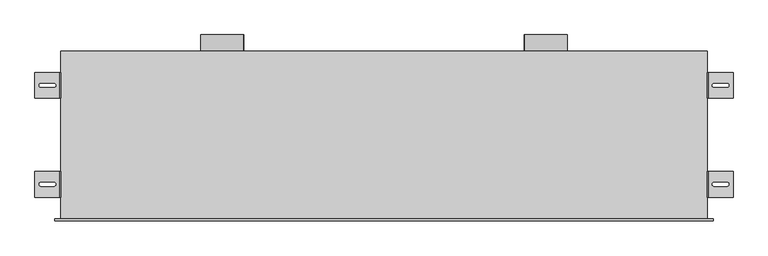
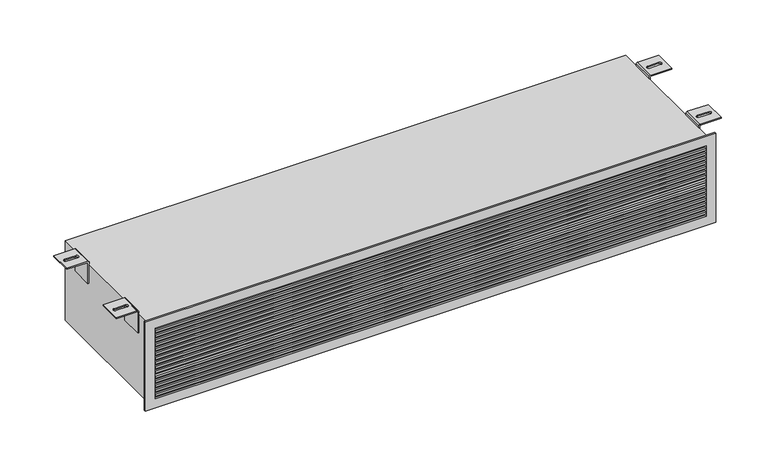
"""IFC4 building model written with IfcOpenShell, lengths in millimetres: air terminal geometry, EOL - Mural - 2 piquages : EOL-M2x100-1500x225-2."""

import ifcopenshell
import ifcopenshell.guid

model = None  # the IFC model being written
_history = None  # IfcOwnerHistory: only IFC2X3 demands one
_inside = {}  # id of a spatial element -> (the spatial element, [elements in it])
_under = {}  # id of a project, library or spatial element -> (it, [spatial elements below it])
_declared = {}  # id of a project -> (the project, [libraries it declares])
_typed = {}  # id of a type object -> (the type object, [elements of that type])
_made_of = {}  # id of a material, layer set ... -> (it, [elements and type objects made of it])


def new_model(schema):
    """Start an empty IFC model of exactly this schema.

    Asked for "IFC4X3", IfcOpenShell would pick the latest addendum, in which some entities
    have other attributes; the version numbers below select the first issue.
    IFC2X3 requires an IfcOwnerHistory on every rooted entity: one is made here for all.
    """
    global model, _history
    if schema == "IFC4X3":
        model = ifcopenshell.file(schema_version=(4, 3, 0, 0))
    else:
        model = ifcopenshell.file(schema=schema)
    _inside.clear()
    _under.clear()
    _declared.clear()
    _typed.clear()
    _made_of.clear()
    _history = None
    if model.schema == "IFC2X3":
        org = make("IfcOrganization", Name="unknown")
        user = make(
            "IfcPersonAndOrganization",
            ThePerson=make("IfcPerson", FamilyName="unknown"),
            TheOrganization=org,
        )
        app = make(
            "IfcApplication",
            ApplicationDeveloper=org,
            Version="unknown",
            ApplicationFullName="unknown",
            ApplicationIdentifier="unknown",
        )
        _history = make(
            "IfcOwnerHistory",
            OwningUser=user,
            OwningApplication=app,
            ChangeAction="ADDED",
            CreationDate=0,
        )
    return model


def make(cls, **values):
    """One entity of the class cls with the attributes given. An attribute that is None is left unset."""
    return model.create_entity(
        cls, **{name: value for name, value in values.items() if value is not None}
    )


def rooted(cls, **values):
    """An entity with a GlobalId (a new one), such as an element, a storey or a relation."""
    return make(cls, GlobalId=ifcopenshell.guid.new(), OwnerHistory=_history, **values)


def si_unit(unit_type, name, prefix=None):
    """IfcSIUnit, for example si_unit("LENGTHUNIT", "METRE", prefix="MILLI")."""
    return make("IfcSIUnit", UnitType=unit_type, Prefix=prefix, Name=name)


def assignment(units):
    """IfcUnitAssignment: the units of a project."""
    return None if units is None else make("IfcUnitAssignment", Units=units)


def point(xyz):
    """IfcCartesianPoint."""
    return None if xyz is None else make("IfcCartesianPoint", Coordinates=xyz)


def direction(xyz):
    """IfcDirection."""
    return None if xyz is None else make("IfcDirection", DirectionRatios=xyz)


def frame(location, z_axis=None, x_axis=None):
    """IfcAxis2Placement3D, a coordinate frame: its origin and axes. An axis left out is left unset."""
    return make(
        "IfcAxis2Placement3D",
        Location=point(location),
        Axis=direction(z_axis),
        RefDirection=direction(x_axis),
    )


def frame_2d(location, x_axis=None):
    """IfcAxis2Placement2D, a coordinate frame in the plane: its origin and x axis."""
    return make(
        "IfcAxis2Placement2D", Location=point(location), RefDirection=direction(x_axis)
    )


def origin():
    """The frame at (0, 0, 0) with its axes left unset."""
    return frame((0.0, 0.0, 0.0))


def place(relative_to, where):
    """IfcLocalPlacement: puts the frame where relative to a parent placement (None: the world)."""
    return make(
        "IfcLocalPlacement", PlacementRelTo=relative_to, RelativePlacement=where
    )


def context(
    kind, dimensions, precision=None, world=None, true_north=None, identifier=None
):
    """IfcGeometricRepresentationContext, for example the 3D "Model" context."""
    return make(
        "IfcGeometricRepresentationContext",
        ContextIdentifier=identifier,
        ContextType=kind,
        CoordinateSpaceDimension=dimensions,
        Precision=precision,
        WorldCoordinateSystem=world,
        TrueNorth=true_north,
    )


def project(units=None, contexts=None):
    """IfcProject with its units and contexts."""
    return rooted(
        "IfcProject",
        Name="project",
        RepresentationContexts=contexts,
        UnitsInContext=assignment(units),
    )


def spatial(cls, under=None, at=None, **own):
    """A site, building, storey or space (cls), placed at a placement, below another one or the project."""
    s = rooted(cls, ObjectPlacement=at, **own)
    if under is not None:
        _under.setdefault(under.id(), (under, []))[1].append(s)
    return s


def polyline(points):
    """IfcPolyline through the points."""
    return make("IfcPolyline", Points=[point(p) for p in points])


def circle_curve(where, radius):
    """IfcCircle in the frame where."""
    return make("IfcCircle", Position=where, Radius=radius)


def ellipse_curve(where, semi_axis1, semi_axis2):
    """IfcEllipse in the frame where."""
    return make(
        "IfcEllipse", Position=where, SemiAxis1=semi_axis1, SemiAxis2=semi_axis2
    )


def trimmed(basis, trim1, trim2, sense, master):
    """IfcTrimmedCurve: the piece of a basis curve between two trims."""
    return make(
        "IfcTrimmedCurve",
        BasisCurve=basis,
        Trim1=trim1,
        Trim2=trim2,
        SenseAgreement=sense,
        MasterRepresentation=master,
    )


def segment(curve, same_sense, transition):
    """IfcCompositeCurveSegment."""
    return make(
        "IfcCompositeCurveSegment",
        Transition=transition,
        SameSense=same_sense,
        ParentCurve=curve,
    )


def composite_curve(segments, self_intersect=None):
    """IfcCompositeCurve: segments joined end to end."""
    return make("IfcCompositeCurve", Segments=segments, SelfIntersect=self_intersect)


def outline(outer, holes=None, kind="AREA"):
    """IfcArbitraryClosedProfileDef: a profile drawn as a closed curve; with holes, ...WithVoids."""
    if holes is None:
        return make("IfcArbitraryClosedProfileDef", ProfileType=kind, OuterCurve=outer)
    return make(
        "IfcArbitraryProfileDefWithVoids",
        ProfileType=kind,
        OuterCurve=outer,
        InnerCurves=holes,
    )


def extrude(swept, where, along, depth):
    """IfcExtrudedAreaSolid: the profile swept, set in the frame where, extruded along a direction by depth."""
    return make(
        "IfcExtrudedAreaSolid",
        SweptArea=swept,
        Position=where,
        ExtrudedDirection=direction(along),
        Depth=depth,
    )


def shape(context_of_items, identifier, shape_type, items):
    """IfcShapeRepresentation: the items that make up one representation, for example the "Body"."""
    return make(
        "IfcShapeRepresentation",
        ContextOfItems=context_of_items,
        RepresentationIdentifier=identifier,
        RepresentationType=shape_type,
        Items=items,
    )


def source(mapping_origin, context_of_items, identifier, shape_type, items):
    """IfcRepresentationMap: a shape defined once, which mapped items show again and again."""
    return make(
        "IfcRepresentationMap",
        MappingOrigin=mapping_origin,
        MappedRepresentation=shape(context_of_items, identifier, shape_type, items),
    )


def transform(
    local_origin,
    x_axis=None,
    y_axis=None,
    z_axis=None,
    scale=None,
    scale2=None,
    scale3=None,
    uniform=True,
):
    """IfcCartesianTransformationOperator3D, or its non-uniform kind. x_axis, y_axis, z_axis: its Axis1, 2, 3."""
    if uniform:
        return make(
            "IfcCartesianTransformationOperator3D",
            Axis1=direction(x_axis),
            Axis2=direction(y_axis),
            LocalOrigin=point(local_origin),
            Scale=scale,
            Axis3=direction(z_axis),
        )
    return make(
        "IfcCartesianTransformationOperator3DnonUniform",
        Axis1=direction(x_axis),
        Axis2=direction(y_axis),
        LocalOrigin=point(local_origin),
        Scale=scale,
        Axis3=direction(z_axis),
        Scale2=scale2,
        Scale3=scale3,
    )


def mapped(mapping_source, mapping_target):
    """IfcMappedItem: shows the shape of a source again, moved by a transform."""
    return make(
        "IfcMappedItem", MappingSource=mapping_source, MappingTarget=mapping_target
    )


def made_of(thing, what):
    """Note that an element or type object is made of a material, layer set ...; save() writes the relation."""
    if what is not None:
        _made_of.setdefault(what.id(), (what, []))[1].append(thing)
    return thing


def element(
    cls,
    number,
    at=None,
    inside=None,
    cuts=None,
    type_object=None,
    material=None,
    context=None,
    identifier="Body",
    shape_type=None,
    held_by="IfcProductDefinitionShape",
    body=None,
    shapes=None,
    **own,
):
    """One element of the class cls, such as IfcWall. Its Tag is "e" and its number.

    at: its placement. inside: the storey or other place that contains it. cuts: it is an
    opening in that element (IfcRelVoidsElement). A single representation is given by context,
    identifier, shape_type and body (its items); several are given by shapes. held_by: the class
    of the entity that holds the representations. save() writes the other relations.
    """
    e = rooted(cls, Tag="e%d" % number, ObjectPlacement=at, **own)
    if body is not None:
        shapes = [shape(context, identifier, shape_type, body)]
    if shapes is not None:
        e.Representation = make(held_by, Representations=shapes)
    if inside is not None:
        _inside.setdefault(inside.id(), (inside, []))[1].append(e)
    if cuts is not None:
        rooted(
            "IfcRelVoidsElement", RelatingBuildingElement=cuts, RelatedOpeningElement=e
        )
    if type_object is not None:
        _typed.setdefault(type_object.id(), (type_object, []))[1].append(e)
    return made_of(e, material)


def aggregate(whole, parts):
    """IfcRelAggregates: a whole, such as a stair, and the parts it consists of."""
    return rooted("IfcRelAggregates", RelatingObject=whole, RelatedObjects=parts)


def save(model, path):
    """Write the relations noted so far, then the file.

    IfcRelAggregates (storeys below a building ...), IfcRelContainedInSpatialStructure (elements
    in a storey), IfcRelDefinesByType, IfcRelAssociatesMaterial and IfcRelDeclares: one each for
    every whole, place, type object, material and project.
    """
    for whole, parts in _under.values():
        aggregate(whole, parts)
    for where, things in _inside.values():
        rooted(
            "IfcRelContainedInSpatialStructure",
            RelatedElements=things,
            RelatingStructure=where,
        )
    for kind, things in _typed.values():
        rooted("IfcRelDefinesByType", RelatedObjects=things, RelatingType=kind)
    for what, things in _made_of.values():
        rooted("IfcRelAssociatesMaterial", RelatedObjects=things, RelatingMaterial=what)
    for by, libraries in _declared.values():
        rooted("IfcRelDeclares", RelatingContext=by, RelatedDefinitions=libraries)
    model.write(path)


def plane_surface(at):
    """IfcPlane: the flat surface through the origin of the frame at, square to its z axis."""
    return make("IfcPlane", Position=at)


def cylinder_surface(at, radius):
    """IfcCylindricalSurface: all points at the distance radius from the z axis of the frame at."""
    return make("IfcCylindricalSurface", Position=at, Radius=radius)


def revolved_surface(curve, axis_point, axis_direction):
    """IfcSurfaceOfRevolution: the curve turned about the line through axis_point along axis_direction."""
    return make(
        "IfcSurfaceOfRevolution",
        SweptCurve=make("IfcArbitraryOpenProfileDef", ProfileType="CURVE", Curve=curve),
        AxisPosition=make("IfcAxis1Placement", Location=point(axis_point), Axis=direction(axis_direction)),
    )


def extruded_surface(curve, direction_of_extrusion, depth):
    """IfcSurfaceOfLinearExtrusion: the curve pushed along a direction by depth."""
    return make(
        "IfcSurfaceOfLinearExtrusion",
        SweptCurve=make("IfcArbitraryOpenProfileDef", ProfileType="CURVE", Curve=curve),
        ExtrudedDirection=direction(direction_of_extrusion),
        Depth=depth,
    )


def advanced_brep(points, edges, surfaces, faces):
    """IfcAdvancedBrep: a solid bounded by faces that lie on surfaces and meet in shared edges.

    An edge is (start, end): straight between two places in points (the first is 0);
    or (start, end, curve); or (start, end, curve, False) where it runs against its curve.
    A face is (place in surfaces, loops), or (place, loops, False) where it looks against
    its surface's normal. A loop lists edges by number (the first is 1), with a minus sign
    where the edge is run from its end to its start. The first loop is the outer one.
    """
    corners = [point(p) for p in points]
    vertices = [make("IfcVertexPoint", VertexGeometry=c) for c in corners]
    made = []
    for start, end, *more in edges:
        made.append(
            make(
                "IfcEdgeCurve",
                EdgeStart=vertices[start],
                EdgeEnd=vertices[end],
                EdgeGeometry=more[0] if more else make("IfcPolyline", Points=[corners[start], corners[end]]),
                SameSense=more[1] if len(more) > 1 else True,
            )
        )
    hull = []
    for where, loops, *sense in faces:
        bounds = []
        for j, loop in enumerate(loops):
            ring = [make("IfcOrientedEdge", EdgeElement=made[abs(k) - 1], Orientation=k > 0) for k in loop]
            bounds.append(
                make(
                    "IfcFaceOuterBound" if j == 0 else "IfcFaceBound",
                    Bound=make("IfcEdgeLoop", EdgeList=ring),
                    Orientation=True,
                )
            )
        hull.append(make("IfcAdvancedFace", Bounds=bounds, FaceSurface=surfaces[where], SameSense=sense[0] if sense else True))
    return make("IfcAdvancedBrep", Outer=make("IfcClosedShell", CfsFaces=hull))


def air_terminal_94710e21(model_context):
    return source(origin(), model_context, "Body", "SolidModel", [
        advanced_brep(
        [(754.0013366, 110.0, 121.5), (810.0, 110.0, 121.5), (810.0, 110.0, 118.5), (754.0, 110.0, 118.5), (753.0, 110.0, 117.5), (753.0, 110.0, 58.5), (750.0, 110.0, 58.5), (750.0, 110.0, 117.4986634), (754.0013366, 50.0, 121.5), (750.0, 50.0, 117.4986634), (750.0, 50.0, 58.5), (753.0, 50.0, 58.5), (753.0, 50.0, 117.5), (754.0, 50.0, 118.5), (810.0, 50.0, 118.5), (810.0, 50.0, 121.5), (796.0287952, 75.4804328, 121.5), (766.0287952, 75.4804328, 121.5), (766.0287952, 84.4804328, 121.5), (796.0287952, 84.4804328, 121.5), (766.0287952, 75.4804328, 118.5), (796.0287952, 75.4804328, 118.5), (796.0287952, 84.4804328, 118.5), (766.0287952, 84.4804328, 118.5)],
        [
            (0, 1),
            (1, 2),
            (2, 3),
            (3, 4, circle_curve(frame((754.0, 110.0, 117.5), z_axis=(0.0, -1.0, 0.0), x_axis=(-1.0000000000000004, 0.0, 0.0)), 1.0)),
            (4, 5),
            (5, 6),
            (6, 7),
            (7, 0, circle_curve(frame((754.0013366, 110.0, 117.4986634), z_axis=(0.0, 1.0, 0.0), x_axis=(-1.0000000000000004, 0.0, 0.0)), 4.0013366)),
            (8, 9, circle_curve(frame((754.0013366, 50.0, 117.4986634), z_axis=(0.0, -1.0, 0.0), x_axis=(-1.0000000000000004, 0.0, 0.0)), 4.0013366)),
            (9, 10),
            (10, 11),
            (11, 12),
            (12, 13, circle_curve(frame((754.0, 50.0, 117.5), z_axis=(0.0, 1.0, 0.0), x_axis=(-1.0000000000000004, 0.0, 0.0)), 1.0)),
            (13, 14),
            (14, 15),
            (15, 8),
            (0, 8),
            (15, 1),
            (16, 17),
            (17, 18, circle_curve(frame((766.0287952, 79.9804328, 121.5), z_axis=(0.0, 0.0, -1.0), x_axis=(0.0, -1.0, 0.0)), 4.5)),
            (18, 19),
            (19, 16, circle_curve(frame((796.0287952, 79.9804328, 121.5), z_axis=(0.0, 0.0, -1.0), x_axis=(0.0, -1.0, 0.0)), 4.5)),
            (14, 2),
            (13, 3),
            (20, 21),
            (21, 22, ellipse_curve(frame((796.0287952, 79.9804328, 118.5), z_axis=(0.0, 0.0, 1.0), x_axis=(0.0, -1.0, 0.0)), 4.5, 4.5)),
            (22, 23),
            (23, 20, ellipse_curve(frame((766.0287952, 79.9804328, 118.5), z_axis=(0.0, 0.0, 1.0), x_axis=(0.0, -1.0, 0.0)), 4.5, 4.5)),
            (12, 4),
            (11, 5),
            (10, 6),
            (9, 7),
            (16, 21),
            (20, 17),
            (19, 22),
            (18, 23),
        ],
        [
            plane_surface(frame((810.0, 110.0, 121.5), z_axis=(0.0, 1.0, 0.0), x_axis=(1.0, 0.0, 0.0))),
            plane_surface(frame((810.0, 50.0, 121.5), z_axis=(0.0, -1.0, 0.0), x_axis=(-1.0, 0.0, 0.0))),
            plane_surface(frame((754.0013366, 110.0, 121.5), z_axis=(0.0, 0.0, 1.0), x_axis=(0.0, -1.0, 0.0))),
            plane_surface(frame((810.0, 110.0, 121.5), z_axis=(1.0, 0.0, 0.0), x_axis=(0.0, -1.0, 0.0))),
            plane_surface(frame((810.0, 110.0, 118.5), z_axis=(0.0, 0.0, -1.0), x_axis=(0.0, -1.0, 0.0))),
            revolved_surface(polyline([(753.0, 50.0, 117.5), (753.0, 110.00000000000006, 117.5)]), (754.0, 50.0, 117.5), (0.0, -1.0000000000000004, 0.0)),
            plane_surface(frame((753.0, 110.0, 117.5), z_axis=(1.0, 0.0, 0.0), x_axis=(0.0, -1.0, 0.0))),
            plane_surface(frame((753.0, 110.0, 58.5), z_axis=(0.0, 0.0, -1.0), x_axis=(0.0, -1.0, 0.0))),
            plane_surface(frame((750.0, 110.0, 58.5), z_axis=(-1.0, 0.0, 0.0), x_axis=(0.0, -1.0, 0.0))),
            cylinder_surface(frame((754.0013366, 50.0, 117.4986634), z_axis=(0.0, 1.0000000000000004, 0.0), x_axis=(-1.0000000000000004, 0.0, 0.0)), 4.0013366),
            plane_surface(frame((766.0287952, 75.4804328, 121.5), z_axis=(0.0, 1.0, 0.0), x_axis=(0.0, 0.0, -1.0))),
            extruded_surface(trimmed(ellipse_curve(frame((796.0287952, 79.9804328, 118.5), z_axis=(0.0, 0.0, 1.0), x_axis=(0.0, -1.0, 0.0)), 4.5, 4.5), [point((796.0287952, 75.4804328, 118.5))], [point((796.0287952, 84.4804328, 118.5))], True, "CARTESIAN"), (0.0, 0.0, -3.0), 3.0),
            plane_surface(frame((796.0287952, 84.4804328, 121.5), z_axis=(0.0, -1.0, 0.0), x_axis=(0.0, 0.0, -1.0))),
            extruded_surface(trimmed(ellipse_curve(frame((766.0287952, 79.9804328, 118.5), z_axis=(0.0, 0.0, 1.0), x_axis=(0.0, -1.0, 0.0)), 4.5, 4.5), [point((766.0287952, 84.4804328, 118.5))], [point((766.0287952, 75.4804328, 118.5))], True, "CARTESIAN"), (0.0, 0.0, -3.0), 3.0),
        ],
        [
            (0, [[1, 2, 3, 4, 5, 6, 7, 8]]),
            (1, [[9, 10, 11, 12, 13, 14, 15, 16]]),
            (2, [[-1, 17, -16, 18], [19, 20, 21, 22]]),
            (3, [[-2, -18, -15, 23]]),
            (4, [[-3, -23, -14, 24], [25, 26, 27, 28]]),
            (5, [[-4, -24, -13, 29]]),
            (6, [[-5, -29, -12, 30]]),
            (7, [[-6, -30, -11, 31]]),
            (8, [[-7, -31, -10, 32]]),
            (9, [[-8, -32, -9, -17]]),
            (10, [[33, -25, 34, -19]]),
            (11, [[-33, -22, 35, -26]]),
            (12, [[-35, -21, 36, -27]]),
            (13, [[-34, -28, -36, -20]]),
        ],
    ),
        advanced_brep(
        [(754.0013366, 340.0, 121.5), (810.0, 340.0, 121.5), (810.0, 340.0, 118.5), (754.0, 340.0, 118.5), (753.0, 340.0, 117.5), (753.0, 340.0, 58.5), (750.0, 340.0, 58.5), (750.0, 340.0, 117.4986634), (754.0013366, 280.0, 121.5), (750.0, 280.0, 117.4986634), (750.0, 280.0, 58.5), (753.0, 280.0, 58.5), (753.0, 280.0, 117.5), (754.0, 280.0, 118.5), (810.0, 280.0, 118.5), (810.0, 280.0, 121.5), (796.0287952, 305.4804328, 121.5), (766.0287952, 305.4804328, 121.5), (766.0287952, 314.4804328, 121.5), (796.0287952, 314.4804328, 121.5), (766.0287952, 305.4804328, 118.5), (796.0287952, 305.4804328, 118.5), (796.0287952, 314.4804328, 118.5), (766.0287952, 314.4804328, 118.5)],
        [
            (0, 1),
            (1, 2),
            (2, 3),
            (3, 4, circle_curve(frame((754.0, 340.0, 117.5), z_axis=(0.0, -1.0, 0.0), x_axis=(-1.0, 0.0, 0.0)), 1.0)),
            (4, 5),
            (5, 6),
            (6, 7),
            (7, 0, circle_curve(frame((754.0013366, 340.0, 117.4986634), z_axis=(0.0, 1.0, 0.0), x_axis=(-1.0, 0.0, 0.0)), 4.0013366)),
            (8, 9, circle_curve(frame((754.0013366, 280.0, 117.4986634), z_axis=(0.0, -1.0, 0.0), x_axis=(-1.0, 0.0, 0.0)), 4.0013366)),
            (9, 10),
            (10, 11),
            (11, 12),
            (12, 13, circle_curve(frame((754.0, 280.0, 117.5), z_axis=(0.0, 1.0, 0.0), x_axis=(-1.0, 0.0, 0.0)), 1.0)),
            (13, 14),
            (14, 15),
            (15, 8),
            (0, 8),
            (15, 1),
            (16, 17),
            (17, 18, circle_curve(frame((766.0287952, 309.9804328, 121.5), z_axis=(0.0, 0.0, -1.0), x_axis=(0.0, -1.0, 0.0)), 4.5)),
            (18, 19),
            (19, 16, circle_curve(frame((796.0287952, 309.9804328, 121.5), z_axis=(0.0, 0.0, -1.0), x_axis=(0.0, -1.0, 0.0)), 4.5)),
            (14, 2),
            (13, 3),
            (20, 21),
            (21, 22, ellipse_curve(frame((796.0287952, 309.9804328, 118.5), z_axis=(0.0, 0.0, 1.0), x_axis=(0.0, -1.0, 0.0)), 4.5, 4.5)),
            (22, 23),
            (23, 20, ellipse_curve(frame((766.0287952, 309.9804328, 118.5), z_axis=(0.0, 0.0, 1.0), x_axis=(0.0, -1.0, 0.0)), 4.5, 4.5)),
            (12, 4),
            (11, 5),
            (10, 6),
            (9, 7),
            (16, 21),
            (20, 17),
            (19, 22),
            (18, 23),
        ],
        [
            plane_surface(frame((810.0, 340.0, 121.5), z_axis=(0.0, 1.0, 0.0), x_axis=(1.0, 0.0, 0.0))),
            plane_surface(frame((810.0, 280.0, 121.5), z_axis=(0.0, -1.0, 0.0), x_axis=(-1.0, 0.0, 0.0))),
            plane_surface(frame((754.0013366, 340.0, 121.5), z_axis=(0.0, 0.0, 1.0), x_axis=(0.0, -1.0, 0.0))),
            plane_surface(frame((810.0, 340.0, 121.5), z_axis=(1.0, 0.0, 0.0), x_axis=(0.0, -1.0, 0.0))),
            plane_surface(frame((810.0, 340.0, 118.5), z_axis=(0.0, 0.0, -1.0), x_axis=(0.0, -1.0, 0.0))),
            revolved_surface(polyline([(753.0, 280.0, 117.5), (753.0, 340.0, 117.5)]), (754.0, 280.0, 117.5), (0.0, -1.0, 0.0)),
            plane_surface(frame((753.0, 340.0, 117.5), z_axis=(1.0, 0.0, 0.0), x_axis=(0.0, -1.0, 0.0))),
            plane_surface(frame((753.0, 340.0, 58.5), z_axis=(0.0, 0.0, -1.0), x_axis=(0.0, -1.0, 0.0))),
            plane_surface(frame((750.0, 340.0, 58.5), z_axis=(-1.0, 0.0, 0.0), x_axis=(0.0, -1.0, 0.0))),
            cylinder_surface(frame((754.0013366, 280.0, 117.4986634), z_axis=(0.0, 1.0, 0.0), x_axis=(-1.0, 0.0, 0.0)), 4.0013366),
            plane_surface(frame((766.0287952, 305.4804328, 121.5), z_axis=(0.0, 1.0, 0.0), x_axis=(0.0, 0.0, -1.0))),
            extruded_surface(trimmed(ellipse_curve(frame((796.0287952, 309.9804328, 118.5), z_axis=(0.0, 0.0, 1.0), x_axis=(0.0, -1.0, 0.0)), 4.5, 4.5), [point((796.0287952, 305.4804328, 118.5))], [point((796.0287952, 314.4804328, 118.5))], True, "CARTESIAN"), (0.0, 0.0, -3.0), 3.0),
            plane_surface(frame((796.0287952, 314.4804328, 121.5), z_axis=(0.0, -1.0, 0.0), x_axis=(0.0, 0.0, -1.0))),
            extruded_surface(trimmed(ellipse_curve(frame((766.0287952, 309.9804328, 118.5), z_axis=(0.0, 0.0, 1.0), x_axis=(0.0, -1.0, 0.0)), 4.5, 4.5), [point((766.0287952, 314.4804328, 118.5))], [point((766.0287952, 305.4804328, 118.5))], True, "CARTESIAN"), (0.0, 0.0, -3.0), 3.0),
        ],
        [
            (0, [[1, 2, 3, 4, 5, 6, 7, 8]]),
            (1, [[9, 10, 11, 12, 13, 14, 15, 16]]),
            (2, [[-1, 17, -16, 18], [19, 20, 21, 22]]),
            (3, [[-2, -18, -15, 23]]),
            (4, [[-3, -23, -14, 24], [25, 26, 27, 28]]),
            (5, [[-4, -24, -13, 29]]),
            (6, [[-5, -29, -12, 30]]),
            (7, [[-6, -30, -11, 31]]),
            (8, [[-7, -31, -10, 32]]),
            (9, [[-8, -32, -9, -17]]),
            (10, [[33, -25, 34, -19]]),
            (11, [[-33, -22, 35, -26]]),
            (12, [[-35, -21, 36, -27]]),
            (13, [[-34, -28, -36, -20]]),
        ],
    ),
        advanced_brep(
        [(-754.0013366, 50.0, 121.5), (-810.0, 50.0, 121.5), (-810.0, 50.0, 118.5), (-754.0, 50.0, 118.5), (-753.0, 50.0, 117.5), (-753.0, 50.0, 58.5), (-750.0, 50.0, 58.5), (-750.0, 50.0, 117.4986634), (-754.0013366, 110.0, 121.5), (-750.0, 110.0, 117.4986634), (-750.0, 110.0, 58.5), (-753.0, 110.0, 58.5), (-753.0, 110.0, 117.5), (-754.0, 110.0, 118.5), (-810.0, 110.0, 118.5), (-810.0, 110.0, 121.5), (-796.0287952, 84.5195672, 121.5), (-766.0287952, 84.5195672, 121.5), (-766.0287952, 75.5195672, 121.5), (-796.0287952, 75.5195672, 121.5), (-766.0287952, 84.5195672, 118.5), (-796.0287952, 84.5195672, 118.5), (-796.0287952, 75.5195672, 118.5), (-766.0287952, 75.5195672, 118.5)],
        [
            (0, 1),
            (1, 2),
            (2, 3),
            (3, 4, circle_curve(frame((-754.0, 50.0, 117.5), z_axis=(0.0, 1.0, 0.0), x_axis=(1.0, 0.0, 0.0)), 1.0)),
            (4, 5),
            (5, 6),
            (6, 7),
            (7, 0, circle_curve(frame((-754.0013366, 50.0, 117.4986634), z_axis=(0.0, -1.0, 0.0), x_axis=(1.0, 0.0, 0.0)), 4.0013366)),
            (8, 9, circle_curve(frame((-754.0013366, 110.0, 117.4986634), z_axis=(0.0, 1.0, 0.0), x_axis=(1.0, 0.0, 0.0)), 4.0013366)),
            (9, 10),
            (10, 11),
            (11, 12),
            (12, 13, circle_curve(frame((-754.0, 110.0, 117.5), z_axis=(0.0, -1.0, 0.0), x_axis=(1.0, 0.0, 0.0)), 1.0)),
            (13, 14),
            (14, 15),
            (15, 8),
            (0, 8),
            (15, 1),
            (16, 17),
            (17, 18, circle_curve(frame((-766.0287952, 80.0195672, 121.5), z_axis=(0.0, 0.0, -1.0), x_axis=(0.0, 1.0, 0.0)), 4.5)),
            (18, 19),
            (19, 16, circle_curve(frame((-796.0287952, 80.0195672, 121.5), z_axis=(0.0, 0.0, -1.0), x_axis=(0.0, 1.0, 0.0)), 4.5)),
            (14, 2),
            (13, 3),
            (20, 21),
            (21, 22, ellipse_curve(frame((-796.0287952, 80.0195672, 118.5), z_axis=(0.0, 0.0, 1.0), x_axis=(0.0, 1.0, 0.0)), 4.5, 4.5)),
            (22, 23),
            (23, 20, ellipse_curve(frame((-766.0287952, 80.0195672, 118.5), z_axis=(0.0, 0.0, 1.0), x_axis=(0.0, 1.0, 0.0)), 4.5, 4.5)),
            (12, 4),
            (11, 5),
            (10, 6),
            (9, 7),
            (16, 21),
            (20, 17),
            (19, 22),
            (18, 23),
        ],
        [
            plane_surface(frame((-810.0, 50.0, 121.5), z_axis=(0.0, -1.0, 0.0), x_axis=(-1.0, 0.0, 0.0))),
            plane_surface(frame((-810.0, 110.0, 121.5), z_axis=(0.0, 1.0, 0.0), x_axis=(1.0, 0.0, 0.0))),
            plane_surface(frame((-754.0013366, 50.0, 121.5), z_axis=(0.0, 0.0, 1.0), x_axis=(0.0, 1.0, 0.0))),
            plane_surface(frame((-810.0, 50.0, 121.5), z_axis=(-1.0, 0.0, 0.0), x_axis=(0.0, 1.0, 0.0))),
            plane_surface(frame((-810.0, 50.0, 118.5), z_axis=(0.0, 0.0, -1.0), x_axis=(0.0, 1.0, 0.0))),
            revolved_surface(polyline([(-753.0, 110.0, 117.5), (-753.0, 50.0, 117.5)]), (-754.0, 110.0, 117.5), (0.0, 1.0, 0.0)),
            plane_surface(frame((-753.0, 50.0, 117.5), z_axis=(-1.0, 0.0, 0.0), x_axis=(0.0, 1.0, 0.0))),
            plane_surface(frame((-753.0, 50.0, 58.5), z_axis=(0.0, 0.0, -1.0), x_axis=(0.0, 1.0, 0.0))),
            plane_surface(frame((-750.0, 50.0, 58.5), z_axis=(1.0, 0.0, 0.0), x_axis=(0.0, 1.0, 0.0))),
            cylinder_surface(frame((-754.0013366, 110.0, 117.4986634), z_axis=(0.0, -1.0, 0.0), x_axis=(1.0, 0.0, 0.0)), 4.0013366),
            plane_surface(frame((-766.0287952, 84.5195672, 121.5), z_axis=(0.0, -1.0, 0.0), x_axis=(0.0, 0.0, -1.0))),
            extruded_surface(trimmed(ellipse_curve(frame((-796.0287952, 80.0195672, 118.5), z_axis=(0.0, 0.0, 1.0), x_axis=(0.0, 1.0, 0.0)), 4.5, 4.5), [point((-796.0287952, 84.5195672, 118.5))], [point((-796.0287952, 75.5195672, 118.5))], True, "CARTESIAN"), (0.0, 0.0, -3.0), 3.0),
            plane_surface(frame((-796.0287952, 75.5195672, 121.5), z_axis=(0.0, 1.0, 0.0), x_axis=(0.0, 0.0, -1.0))),
            extruded_surface(trimmed(ellipse_curve(frame((-766.0287952, 80.0195672, 118.5), z_axis=(0.0, 0.0, 1.0), x_axis=(0.0, 1.0, 0.0)), 4.5, 4.5), [point((-766.0287952, 75.5195672, 118.5))], [point((-766.0287952, 84.5195672, 118.5))], True, "CARTESIAN"), (0.0, 0.0, -3.0), 3.0),
        ],
        [
            (0, [[1, 2, 3, 4, 5, 6, 7, 8]]),
            (1, [[9, 10, 11, 12, 13, 14, 15, 16]]),
            (2, [[-1, 17, -16, 18], [19, 20, 21, 22]]),
            (3, [[-2, -18, -15, 23]]),
            (4, [[-3, -23, -14, 24], [25, 26, 27, 28]]),
            (5, [[-4, -24, -13, 29]]),
            (6, [[-5, -29, -12, 30]]),
            (7, [[-6, -30, -11, 31]]),
            (8, [[-7, -31, -10, 32]]),
            (9, [[-8, -32, -9, -17]]),
            (10, [[33, -25, 34, -19]]),
            (11, [[-33, -22, 35, -26]]),
            (12, [[-35, -21, 36, -27]]),
            (13, [[-34, -28, -36, -20]]),
        ],
    ),
        advanced_brep(
        [(-754.0013366, 280.0, 121.5), (-810.0, 280.0, 121.5), (-810.0, 280.0, 118.5), (-754.0, 280.0, 118.5), (-753.0, 280.0, 117.5), (-753.0, 280.0, 58.5), (-750.0, 280.0, 58.5), (-750.0, 280.0, 117.4986634), (-754.0013366, 340.0, 121.5), (-750.0, 340.0, 117.4986634), (-750.0, 340.0, 58.5), (-753.0, 340.0, 58.5), (-753.0, 340.0, 117.5), (-754.0, 340.0, 118.5), (-810.0, 340.0, 118.5), (-810.0, 340.0, 121.5), (-796.0287952, 314.5195672, 121.5), (-766.0287952, 314.5195672, 121.5), (-766.0287952, 305.5195672, 121.5), (-796.0287952, 305.5195672, 121.5), (-766.0287952, 314.5195672, 118.5), (-796.0287952, 314.5195672, 118.5), (-796.0287952, 305.5195672, 118.5), (-766.0287952, 305.5195672, 118.5)],
        [
            (0, 1),
            (1, 2),
            (2, 3),
            (3, 4, circle_curve(frame((-754.0, 280.0, 117.5), z_axis=(0.0, 1.0, 0.0), x_axis=(1.0, 0.0, 0.0)), 1.0)),
            (4, 5),
            (5, 6),
            (6, 7),
            (7, 0, circle_curve(frame((-754.0013366, 280.0, 117.4986634), z_axis=(0.0, -1.0, 0.0), x_axis=(1.0, 0.0, 0.0)), 4.0013366)),
            (8, 9, circle_curve(frame((-754.0013366, 340.0, 117.4986634), z_axis=(0.0, 1.0, 0.0), x_axis=(1.0, 0.0, 0.0)), 4.0013366)),
            (9, 10),
            (10, 11),
            (11, 12),
            (12, 13, circle_curve(frame((-754.0, 340.0, 117.5), z_axis=(0.0, -1.0, 0.0), x_axis=(1.0, 0.0, 0.0)), 1.0)),
            (13, 14),
            (14, 15),
            (15, 8),
            (0, 8),
            (15, 1),
            (16, 17),
            (17, 18, circle_curve(frame((-766.0287952, 310.0195672, 121.5), z_axis=(0.0, 0.0, -1.0), x_axis=(0.0, 1.0, 0.0)), 4.5)),
            (18, 19),
            (19, 16, circle_curve(frame((-796.0287952, 310.0195672, 121.5), z_axis=(0.0, 0.0, -1.0), x_axis=(0.0, 1.0, 0.0)), 4.5)),
            (14, 2),
            (13, 3),
            (20, 21),
            (21, 22, ellipse_curve(frame((-796.0287952, 310.0195672, 118.5), z_axis=(0.0, 0.0, 1.0), x_axis=(0.0, 1.0, 0.0)), 4.5, 4.5)),
            (22, 23),
            (23, 20, ellipse_curve(frame((-766.0287952, 310.0195672, 118.5), z_axis=(0.0, 0.0, 1.0), x_axis=(0.0, 1.0, 0.0)), 4.5, 4.5)),
            (12, 4),
            (11, 5),
            (10, 6),
            (9, 7),
            (16, 21),
            (20, 17),
            (19, 22),
            (18, 23),
        ],
        [
            plane_surface(frame((-810.0, 280.0, 121.5), z_axis=(0.0, -1.0, 0.0), x_axis=(-1.0, 0.0, 0.0))),
            plane_surface(frame((-810.0, 340.0, 121.5), z_axis=(0.0, 1.0, 0.0), x_axis=(1.0, 0.0, 0.0))),
            plane_surface(frame((-754.0013366, 280.0, 121.5), z_axis=(0.0, 0.0, 1.0), x_axis=(0.0, 1.0, 0.0))),
            plane_surface(frame((-810.0, 280.0, 121.5), z_axis=(-1.0, 0.0, 0.0), x_axis=(0.0, 1.0, 0.0))),
            plane_surface(frame((-810.0, 280.0, 118.5), z_axis=(0.0, 0.0, -1.0), x_axis=(0.0, 1.0, 0.0))),
            revolved_surface(polyline([(-753.0, 340.0, 117.5), (-753.0, 280.0, 117.5)]), (-754.0, 340.0, 117.5), (0.0, 1.0, 0.0)),
            plane_surface(frame((-753.0, 280.0, 117.5), z_axis=(-1.0, 0.0, 0.0), x_axis=(0.0, 1.0, 0.0))),
            plane_surface(frame((-753.0, 280.0, 58.5), z_axis=(0.0, 0.0, -1.0), x_axis=(0.0, 1.0, 0.0))),
            plane_surface(frame((-750.0, 280.0, 58.5), z_axis=(1.0, 0.0, 0.0), x_axis=(0.0, 1.0, 0.0))),
            cylinder_surface(frame((-754.0013366, 340.0, 117.4986634), z_axis=(0.0, -1.0, 0.0), x_axis=(1.0, 0.0, 0.0)), 4.0013366),
            plane_surface(frame((-766.0287952, 314.5195672, 121.5), z_axis=(0.0, -1.0, 0.0), x_axis=(0.0, 0.0, -1.0))),
            extruded_surface(trimmed(ellipse_curve(frame((-796.0287952, 310.0195672, 118.5), z_axis=(0.0, 0.0, 1.0), x_axis=(0.0, 1.0, 0.0)), 4.5, 4.5), [point((-796.0287952, 314.5195672, 118.5))], [point((-796.0287952, 305.5195672, 118.5))], True, "CARTESIAN"), (0.0, 0.0, -3.0), 3.0),
            plane_surface(frame((-796.0287952, 305.5195672, 121.5), z_axis=(0.0, 1.0, 0.0), x_axis=(0.0, 0.0, -1.0))),
            extruded_surface(trimmed(ellipse_curve(frame((-766.0287952, 310.0195672, 118.5), z_axis=(0.0, 0.0, 1.0), x_axis=(0.0, 1.0, 0.0)), 4.5, 4.5), [point((-766.0287952, 305.5195672, 118.5))], [point((-766.0287952, 314.5195672, 118.5))], True, "CARTESIAN"), (0.0, 0.0, -3.0), 3.0),
        ],
        [
            (0, [[1, 2, 3, 4, 5, 6, 7, 8]]),
            (1, [[9, 10, 11, 12, 13, 14, 15, 16]]),
            (2, [[-1, 17, -16, 18], [19, 20, 21, 22]]),
            (3, [[-2, -18, -15, 23]]),
            (4, [[-3, -23, -14, 24], [25, 26, 27, 28]]),
            (5, [[-4, -24, -13, 29]]),
            (6, [[-5, -29, -12, 30]]),
            (7, [[-6, -30, -11, 31]]),
            (8, [[-7, -31, -10, 32]]),
            (9, [[-8, -32, -9, -17]]),
            (10, [[33, -25, 34, -19]]),
            (11, [[-33, -22, 35, -26]]),
            (12, [[-35, -21, 36, -27]]),
            (13, [[-34, -28, -36, -20]]),
        ],
    ),
        extrude(outline(composite_curve([segment(trimmed(circle_curve(frame_2d((0.0, 375.0)), 50.0), [point((0.0, 325.0))], [point((0.0, 425.0))], False, "CARTESIAN"), True, "CONTINUOUS"), segment(trimmed(circle_curve(frame_2d((0.0, 375.0)), 50.0), [point((0.0, 425.0))], [point((0.0, 325.0))], False, "CARTESIAN"), True, "CONTINUOUS")], self_intersect=False), holes=[composite_curve([segment(trimmed(circle_curve(frame_2d((0.0, 375.0)), 49.0), [point((0.0, 424.0))], [point((0.0, 326.0))], True, "CARTESIAN"), True, "CONTINUOUS"), segment(trimmed(circle_curve(frame_2d((0.0, 375.0)), 49.0), [point((0.0, 326.0))], [point((0.0, 424.0))], True, "CARTESIAN"), True, "CONTINUOUS")], self_intersect=False)]), frame((0.0, 390.0, 0.0), z_axis=(0.0, 1.0, 0.0), x_axis=(0.0, 0.0, 1.0)), (0.0, 0.0, 1.0), 37.5),
        extrude(outline(composite_curve([segment(trimmed(circle_curve(frame_2d((0.0, -375.0)), 50.0), [point((0.0, -425.0))], [point((0.0, -325.0))], False, "CARTESIAN"), True, "CONTINUOUS"), segment(trimmed(circle_curve(frame_2d((0.0, -375.0)), 50.0), [point((0.0, -325.0))], [point((0.0, -425.0))], False, "CARTESIAN"), True, "CONTINUOUS")], self_intersect=False), holes=[composite_curve([segment(trimmed(circle_curve(frame_2d((0.0, -375.0)), 49.0), [point((0.0, -326.0))], [point((0.0, -424.0))], True, "CARTESIAN"), True, "CONTINUOUS"), segment(trimmed(circle_curve(frame_2d((0.0, -375.0)), 49.0), [point((0.0, -424.0))], [point((0.0, -326.0))], True, "CARTESIAN"), True, "CONTINUOUS")], self_intersect=False)]), frame((0.0, 390.0, 0.0), z_axis=(0.0, 1.0, 0.0), x_axis=(0.0, 0.0, 1.0)), (0.0, 0.0, 1.0), 37.5),
        extrude(outline(polyline([(737.5, 0.0), (737.5, -5.0), (-737.5, -5.0), (-737.5, 0.0), (737.5, 0.0)])), frame((0.0, 0.0, 87.15), z_axis=(0.0, 0.0, 1.0), x_axis=(1.0, 0.0, 0.0)), (0.0, 0.0, 1.0), 5.6),
        extrude(outline(polyline([(737.5, 0.0), (737.5, -5.0), (-737.5, -5.0), (-737.5, 0.0), (737.5, 0.0)])), frame((0.0, 0.0, 74.3), z_axis=(0.0, 0.0, 1.0), x_axis=(1.0, 0.0, 0.0)), (0.0, 0.0, 1.0), 5.6),
        extrude(outline(polyline([(737.5, 0.0), (737.5, -5.0), (-737.5, -5.0), (-737.5, 0.0), (737.5, 0.0)])), frame((0.0, 0.0, 61.45), z_axis=(0.0, 0.0, 1.0), x_axis=(1.0, 0.0, 0.0)), (0.0, 0.0, 1.0), 5.6),
        extrude(outline(polyline([(737.5, 0.0), (737.5, -5.0), (-737.5, -5.0), (-737.5, 0.0), (737.5, 0.0)])), frame((0.0, 0.0, 48.6), z_axis=(0.0, 0.0, 1.0), x_axis=(1.0, 0.0, 0.0)), (0.0, 0.0, 1.0), 5.6),
        extrude(outline(polyline([(737.5, 0.0), (737.5, -5.0), (-737.5, -5.0), (-737.5, 0.0), (737.5, 0.0)])), frame((0.0, 0.0, 35.75), z_axis=(0.0, 0.0, 1.0), x_axis=(1.0, 0.0, 0.0)), (0.0, 0.0, 1.0), 5.6),
        extrude(outline(polyline([(737.5, 0.0), (737.5, -5.0), (-737.5, -5.0), (-737.5, 0.0), (737.5, 0.0)])), frame((0.0, 0.0, 22.9), z_axis=(0.0, 0.0, 1.0), x_axis=(1.0, 0.0, 0.0)), (0.0, 0.0, 1.0), 5.6),
        extrude(outline(polyline([(737.5, 0.0), (737.5, -5.0), (-737.5, -5.0), (-737.5, 0.0), (737.5, 0.0)])), frame((0.0, 0.0, 10.05), z_axis=(0.0, 0.0, 1.0), x_axis=(1.0, 0.0, 0.0)), (0.0, 0.0, 1.0), 5.6),
        extrude(outline(polyline([(737.5, 0.0), (737.5, -5.0), (-737.5, -5.0), (-737.5, 0.0), (737.5, 0.0)])), frame((0.0, 0.0, -2.8), z_axis=(0.0, 0.0, 1.0), x_axis=(1.0, 0.0, 0.0)), (0.0, 0.0, 1.0), 5.6),
        extrude(outline(polyline([(737.5, 0.0), (737.5, -5.0), (-737.5, -5.0), (-737.5, 0.0), (737.5, 0.0)])), frame((0.0, 0.0, -15.65), z_axis=(0.0, 0.0, 1.0), x_axis=(1.0, 0.0, 0.0)), (0.0, 0.0, 1.0), 5.6),
        extrude(outline(polyline([(737.5, 0.0), (737.5, -5.0), (-737.5, -5.0), (-737.5, 0.0), (737.5, 0.0)])), frame((0.0, 0.0, -28.5), z_axis=(0.0, 0.0, 1.0), x_axis=(1.0, 0.0, 0.0)), (0.0, 0.0, 1.0), 5.6),
        extrude(outline(polyline([(737.5, 0.0), (737.5, -5.0), (-737.5, -5.0), (-737.5, 0.0), (737.5, 0.0)])), frame((0.0, 0.0, -41.35), z_axis=(0.0, 0.0, 1.0), x_axis=(1.0, 0.0, 0.0)), (0.0, 0.0, 1.0), 5.6),
        extrude(outline(polyline([(737.5, 0.0), (737.5, -5.0), (-737.5, -5.0), (-737.5, 0.0), (737.5, 0.0)])), frame((0.0, 0.0, -54.2), z_axis=(0.0, 0.0, 1.0), x_axis=(1.0, 0.0, 0.0)), (0.0, 0.0, 1.0), 5.6),
        extrude(outline(polyline([(737.5, 0.0), (737.5, -5.0), (-737.5, -5.0), (-737.5, 0.0), (737.5, 0.0)])), frame((0.0, 0.0, -67.05), z_axis=(0.0, 0.0, 1.0), x_axis=(1.0, 0.0, 0.0)), (0.0, 0.0, 1.0), 5.6),
        extrude(outline(polyline([(737.5, 0.0), (737.5, -5.0), (-737.5, -5.0), (-737.5, 0.0), (737.5, 0.0)])), frame((0.0, 0.0, -79.9), z_axis=(0.0, 0.0, 1.0), x_axis=(1.0, 0.0, 0.0)), (0.0, 0.0, 1.0), 5.6),
        extrude(outline(polyline([(737.5, 0.0), (737.5, -5.0), (-737.5, -5.0), (-737.5, 0.0), (737.5, 0.0)])), frame((0.0, 0.0, -92.75), z_axis=(0.0, 0.0, 1.0), x_axis=(1.0, 0.0, 0.0)), (0.0, 0.0, 1.0), 5.6),
        extrude(outline(polyline([(126.0, 764.0), (126.0, -764.0), (-126.0, -764.0), (-126.0, 764.0), (126.0, 764.0)]), holes=[polyline([(100.0, 737.5), (-100.0, 737.5), (-100.0, -737.5), (100.0, -737.5), (100.0, 737.5)])]), frame((0.0, -5.0, 0.0), z_axis=(0.0, 1.0, 0.0), x_axis=(0.0, 0.0, 1.0)), (0.0, 0.0, 1.0), 5.0),
        advanced_brep(
        [(750.0, 390.0, 112.5), (-750.0, 390.0, 112.5), (-750.0, 0.0, 112.5), (750.0, 0.0, 112.5), (750.0, 390.0, -112.5), (750.0, 0.0, -112.5), (-750.0, 0.0, -112.5), (-750.0, 390.0, -112.5), (326.0, 390.0, 0.0), (424.0, 390.0, 0.0), (-424.0, 390.0, 0.0), (-326.0, 390.0, 0.0), (-745.0, 0.0, 107.5), (745.0, 0.0, 107.5), (745.0, 0.0, -107.5), (-745.0, 0.0, -107.5), (745.0, 385.0, 107.5), (-745.0, 385.0, 107.5), (745.0, 385.0, -107.5), (-745.0, 385.0, -107.5), (424.0, 385.0, 0.0), (326.0, 385.0, 0.0), (-326.0, 385.0, 0.0), (-424.0, 385.0, 0.0)],
        [
            (0, 1),
            (1, 2),
            (2, 3),
            (3, 0),
            (4, 5),
            (5, 6),
            (6, 7),
            (7, 4),
            (0, 4),
            (7, 1),
            (8, 9, circle_curve(frame((375.0, 390.0, 0.0), z_axis=(0.0, -1.0, 0.0), x_axis=(1.0, 0.0, 0.0)), 49.0)),
            (9, 8, circle_curve(frame((375.0, 390.0, 0.0), z_axis=(0.0, -1.0, 0.0), x_axis=(1.0, 0.0, 0.0)), 49.0)),
            (10, 11, circle_curve(frame((-375.0, 390.0, 0.0), z_axis=(0.0, -1.0, 0.0), x_axis=(1.0, 0.0, 0.0)), 49.0)),
            (11, 10, circle_curve(frame((-375.0, 390.0, 0.0), z_axis=(0.0, -1.0, 0.0), x_axis=(1.0, 0.0, 0.0)), 49.0)),
            (6, 2),
            (5, 3),
            (12, 13),
            (13, 14),
            (14, 15),
            (15, 12),
            (16, 13),
            (12, 17),
            (17, 16),
            (18, 19),
            (19, 15),
            (14, 18),
            (17, 19),
            (18, 16),
            (20, 21, circle_curve(frame((375.0, 385.0, 0.0), z_axis=(0.0, 1.0, 0.0), x_axis=(1.0, 0.0, 0.0)), 49.0)),
            (21, 20, circle_curve(frame((375.0, 385.0, 0.0), z_axis=(0.0, 1.0, 0.0), x_axis=(1.0, 0.0, 0.0)), 49.0)),
            (22, 23, circle_curve(frame((-375.0, 385.0, 0.0), z_axis=(0.0, 1.0, 0.0), x_axis=(1.0, 0.0, 0.0)), 49.0)),
            (23, 22, circle_curve(frame((-375.0, 385.0, 0.0), z_axis=(0.0, 1.0, 0.0), x_axis=(1.0, 0.0, 0.0)), 49.0)),
            (8, 21),
            (20, 9),
            (10, 23),
            (22, 11),
        ],
        [
            plane_surface(frame((-750.0, 390.0, 112.5), z_axis=(0.0, 0.0, 1.0), x_axis=(-1.0, 0.0, 0.0))),
            plane_surface(frame((-750.0, 390.0, -112.5), z_axis=(0.0, 0.0, -1.0), x_axis=(1.0, 0.0, 0.0))),
            plane_surface(frame((750.0, 390.0, 112.5), z_axis=(0.0, 1.0, 0.0), x_axis=(0.0, 0.0, -1.0))),
            plane_surface(frame((-750.0, 390.0, 112.5), z_axis=(-1.0, 0.0, 0.0), x_axis=(0.0, 0.0, -1.0))),
            plane_surface(frame((-750.0, 0.0, 112.5), z_axis=(0.0, -1.0, 0.0), x_axis=(0.0, 0.0, -1.0))),
            plane_surface(frame((750.0, 0.0, 112.5), z_axis=(1.0, 0.0, 0.0), x_axis=(0.0, 0.0, -1.0))),
            plane_surface(frame((-745.0, 385.0, 107.5), z_axis=(0.0, 0.0, -1.0), x_axis=(-1.0, 0.0, 0.0))),
            plane_surface(frame((-745.0, 385.0, -107.5), z_axis=(0.0, 0.0, 1.0), x_axis=(1.0, 0.0, 0.0))),
            plane_surface(frame((745.0, 385.0, 107.5), z_axis=(0.0, -1.0, 0.0), x_axis=(0.0, 0.0, -1.0))),
            plane_surface(frame((-745.0, 385.0, 107.5), z_axis=(1.0, 0.0, 0.0), x_axis=(0.0, 0.0, -1.0))),
            plane_surface(frame((745.0, 0.0, 107.5), z_axis=(-1.0, 0.0, 0.0), x_axis=(0.0, 0.0, -1.0))),
            revolved_surface(polyline([(424.0, 385.0, 0.0), (424.0, 390.0, 0.0)]), (375.0, 427.5, 0.0), (0.0, -1.0, 0.0)),
            revolved_surface(polyline([(-326.0, 385.0, 0.0), (-326.0, 390.0, 0.0)]), (-375.0, 0.0, 0.0), (0.0, -1.0, 0.0)),
        ],
        [
            (0, [[1, 2, 3, 4]]),
            (1, [[5, 6, 7, 8]]),
            (2, [[-1, 9, -8, 10], [11, 12], [13, 14]]),
            (3, [[-2, -10, -7, 15]]),
            (4, [[-3, -15, -6, 16], [17, 18, 19, 20]]),
            (5, [[-4, -16, -5, -9]]),
            (6, [[21, -17, 22, 23]]),
            (7, [[24, 25, -19, 26]]),
            (8, [[-23, 27, -24, 28], [29, 30], [31, 32]]),
            (9, [[-22, -20, -25, -27]]),
            (10, [[-21, -28, -26, -18]]),
            (11, [[33, -29, 34, -11]]),
            (11, [[-33, -12, -34, -30]]),
            (12, [[35, -31, 36, -13]]),
            (12, [[-35, -14, -36, -32]]),
        ],
    ),
    ])


if __name__ == "__main__":
    model = new_model("IFC4")
    model_context = context("Model", 3, world=origin())
    ifc_project = project(units=[si_unit("LENGTHUNIT", "METRE", prefix="MILLI")], contexts=[model_context])
    site = spatial("IfcSite", under=ifc_project)
    building = spatial("IfcBuilding", under=site)
    placement = place(None, origin())
    air_terminal_shape = air_terminal_94710e21(model_context)
    element("IfcAirTerminal", 1, ObjectType="EOL - Mural - 2 piquages : EOL-M2x100-1500x225-2", at=placement, inside=building, context=model_context, shape_type="MappedRepresentation", body=[
        mapped(air_terminal_shape, transform((0.0, 0.0, 0.0), x_axis=(1.0, 0.0, 0.0), y_axis=(0.0, 1.0, 0.0), z_axis=(0.0, 0.0, 1.0))),
    ])
    save(model, "model.ifc")
